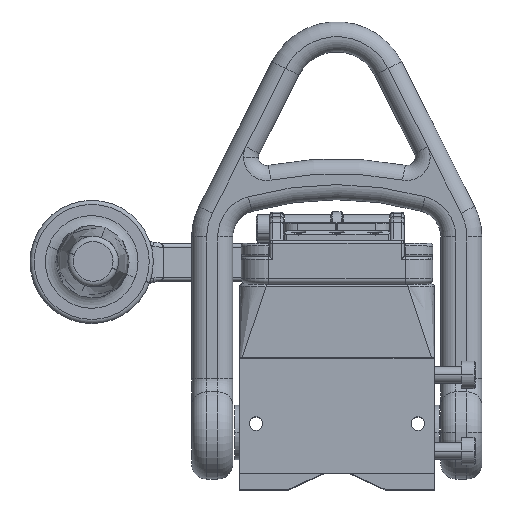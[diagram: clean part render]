
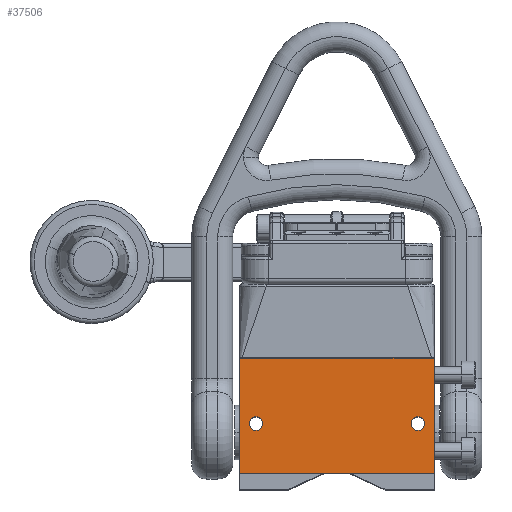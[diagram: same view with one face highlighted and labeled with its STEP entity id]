
A CAD part, top view. The second image highlights one B-rep face of the part: STEP entity #37506.
In plain terms, the highlighted planar face has unit normal (0, 0, 1).
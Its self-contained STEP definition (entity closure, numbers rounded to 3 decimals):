
#22187 = AXIS2_PLACEMENT_3D ( 'NONE', #56939, #56945, #56946 ) ;
#37506 = ADVANCED_FACE ( 'NONE', ( #54761, #54768, #54770 ), #56944, .F. ) ;
#38598 = EDGE_LOOP ( 'NONE', ( #46782, #46783, #46784, #46785 ) ) ;
#38606 = EDGE_LOOP ( 'NONE', ( #46786, #46787 ) ) ;
#38607 = EDGE_LOOP ( 'NONE', ( #46788, #46789 ) ) ;
#42120 = VERTEX_POINT ( 'NONE', #61697 ) ;
#42121 = VERTEX_POINT ( 'NONE', #61698 ) ;
#42124 = VERTEX_POINT ( 'NONE', #61701 ) ;
#42125 = VERTEX_POINT ( 'NONE', #61702 ) ;
#42141 = VERTEX_POINT ( 'NONE', #61718 ) ;
#42142 = VERTEX_POINT ( 'NONE', #61719 ) ;
#42156 = VERTEX_POINT ( 'NONE', #61733 ) ;
#42157 = VERTEX_POINT ( 'NONE', #61734 ) ;
#45298 = EDGE_CURVE ( 'NONE', #42120, #42121, #70606, .T. ) ;
#45302 = EDGE_CURVE ( 'NONE', #42124, #42125, #70612, .T. ) ;
#45334 = EDGE_CURVE ( 'NONE', #42125, #42124, #70660, .T. ) ;
#45336 = EDGE_CURVE ( 'NONE', #42121, #42120, #70663, .T. ) ;
#45338 = EDGE_CURVE ( 'NONE', #42142, #42141, #70662, .T. ) ;
#45353 = EDGE_CURVE ( 'NONE', #42156, #42142, #70688, .T. ) ;
#45360 = EDGE_CURVE ( 'NONE', #42156, #42157, #70696, .T. ) ;
#45361 = EDGE_CURVE ( 'NONE', #42141, #42157, #70698, .T. ) ;
#46782 = ORIENTED_EDGE ( 'NONE', *, *, #45361, .T. ) ;
#46783 = ORIENTED_EDGE ( 'NONE', *, *, #45360, .F. ) ;
#46784 = ORIENTED_EDGE ( 'NONE', *, *, #45353, .T. ) ;
#46785 = ORIENTED_EDGE ( 'NONE', *, *, #45338, .T. ) ;
#46786 = ORIENTED_EDGE ( 'NONE', *, *, #45336, .F. ) ;
#46787 = ORIENTED_EDGE ( 'NONE', *, *, #45298, .F. ) ;
#46788 = ORIENTED_EDGE ( 'NONE', *, *, #45334, .F. ) ;
#46789 = ORIENTED_EDGE ( 'NONE', *, *, #45302, .F. ) ;
#54761 = FACE_OUTER_BOUND ( 'NONE', #38598, .T. ) ;
#54768 = FACE_BOUND ( 'NONE', #38606, .T. ) ;
#54770 = FACE_BOUND ( 'NONE', #38607, .T. ) ;
#56939 = CARTESIAN_POINT ( 'NONE',  ( 0., 0., 119. ) ) ;
#56944 = PLANE ( 'NONE',  #22187 ) ;
#56945 = DIRECTION ( 'NONE',  ( 0., 0., -1. ) ) ;
#56946 = DIRECTION ( 'NONE',  ( -1., 0., 0. ) ) ;
#57739 = AXIS2_PLACEMENT_3D ( 'NONE', #71456, #71457, #71458 ) ;
#57747 = AXIS2_PLACEMENT_3D ( 'NONE', #71454, #71469, #71470 ) ;
#57760 = AXIS2_PLACEMENT_3D ( 'NONE', #71545, #71546, #71547 ) ;
#57761 = AXIS2_PLACEMENT_3D ( 'NONE', #71551, #71552, #71553 ) ;
#61697 = CARTESIAN_POINT ( 'NONE',  ( 3.5, -23.95, 119. ) ) ;
#61698 = CARTESIAN_POINT ( 'NONE',  ( 8.5, -23.95, 119. ) ) ;
#61701 = CARTESIAN_POINT ( 'NONE',  ( 62.62, -23.95, 119. ) ) ;
#61702 = CARTESIAN_POINT ( 'NONE',  ( 67.62, -23.95, 119. ) ) ;
#61718 = CARTESIAN_POINT ( 'NONE',  ( 0.1, -0.1, 119. ) ) ;
#61719 = CARTESIAN_POINT ( 'NONE',  ( 71.02, -0.1, 119. ) ) ;
#61733 = CARTESIAN_POINT ( 'NONE',  ( 71.02, -42., 119. ) ) ;
#61734 = CARTESIAN_POINT ( 'NONE',  ( 0.1, -42., 119. ) ) ;
#70606 = CIRCLE ( 'NONE', #57739, 2.5 ) ;
#70612 = CIRCLE ( 'NONE', #57747, 2.5 ) ;
#70660 = CIRCLE ( 'NONE', #57760, 2.5 ) ;
#70662 = LINE ( 'NONE', #71548, #70664 ) ;
#70663 = CIRCLE ( 'NONE', #57761, 2.5 ) ;
#70664 = VECTOR ( 'NONE', #71558, 1000. ) ;
#70688 = LINE ( 'NONE', #71593, #70689 ) ;
#70689 = VECTOR ( 'NONE', #71594, 1000. ) ;
#70694 = VECTOR ( 'NONE', #71612, 1000. ) ;
#70696 = LINE ( 'NONE', #71603, #70694 ) ;
#70698 = LINE ( 'NONE', #71613, #70699 ) ;
#70699 = VECTOR ( 'NONE', #71614, 1000. ) ;
#71454 = CARTESIAN_POINT ( 'NONE',  ( 65.12, -23.95, 119. ) ) ;
#71456 = CARTESIAN_POINT ( 'NONE',  ( 6., -23.95, 119. ) ) ;
#71457 = DIRECTION ( 'NONE',  ( 0., 0., 1. ) ) ;
#71458 = DIRECTION ( 'NONE',  ( 1., 0., 0. ) ) ;
#71469 = DIRECTION ( 'NONE',  ( 0., 0., 1. ) ) ;
#71470 = DIRECTION ( 'NONE',  ( 1., 0., 0. ) ) ;
#71545 = CARTESIAN_POINT ( 'NONE',  ( 65.12, -23.95, 119. ) ) ;
#71546 = DIRECTION ( 'NONE',  ( 0., 0., 1. ) ) ;
#71547 = DIRECTION ( 'NONE',  ( 1., 0., 0. ) ) ;
#71548 = CARTESIAN_POINT ( 'NONE',  ( 0., -0.1, 119. ) ) ;
#71551 = CARTESIAN_POINT ( 'NONE',  ( 6., -23.95, 119. ) ) ;
#71552 = DIRECTION ( 'NONE',  ( 0., 0., 1. ) ) ;
#71553 = DIRECTION ( 'NONE',  ( 1., 0., 0. ) ) ;
#71558 = DIRECTION ( 'NONE',  ( -1., 0., 0. ) ) ;
#71593 = CARTESIAN_POINT ( 'NONE',  ( 71.02, 0., 119. ) ) ;
#71594 = DIRECTION ( 'NONE',  ( 0., 1., 0. ) ) ;
#71603 = CARTESIAN_POINT ( 'NONE',  ( 40.64, -42., 119. ) ) ;
#71612 = DIRECTION ( 'NONE',  ( -1., 0., 0. ) ) ;
#71613 = CARTESIAN_POINT ( 'NONE',  ( 0.1, 0., 119. ) ) ;
#71614 = DIRECTION ( 'NONE',  ( 0., -1., 0. ) ) ;
